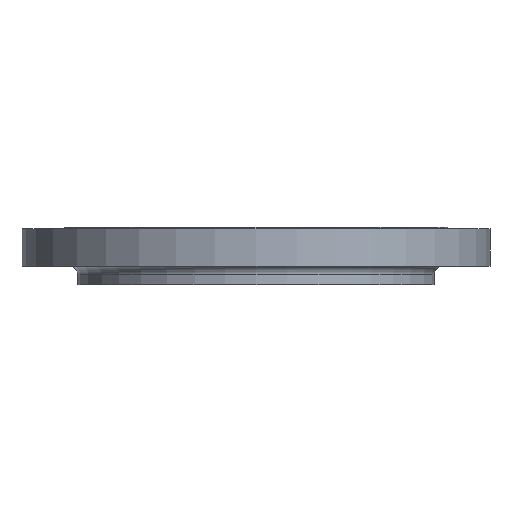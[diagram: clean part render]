
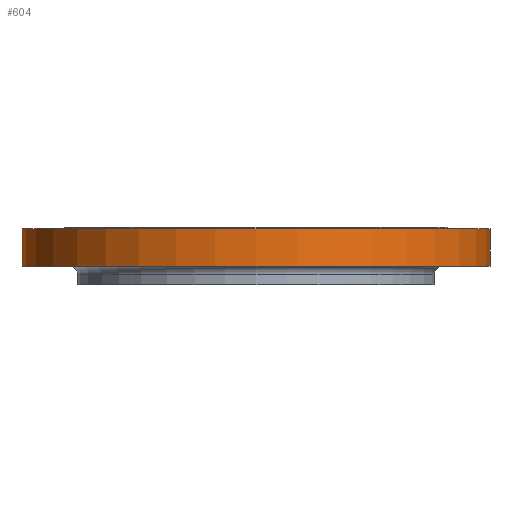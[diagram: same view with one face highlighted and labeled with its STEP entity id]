
A CAD part, front view. The second image highlights one B-rep face of the part: STEP entity #604.
In plain terms, the highlighted cylindrical face has radius 342.5 mm (diameter 685 mm), a partial arc.
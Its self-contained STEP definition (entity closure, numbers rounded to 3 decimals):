
#66 = DIRECTION ( 'NONE',  ( -1., 0., 0. ) ) ;
#69 = DIRECTION ( 'NONE',  ( 0., 0., -1. ) ) ;
#70 = CARTESIAN_POINT ( 'NONE',  ( 0., 0., -2. ) ) ;
#88 = DIRECTION ( 'NONE',  ( 1., 0., 0. ) ) ;
#89 = DIRECTION ( 'NONE',  ( 0., 0., 1. ) ) ;
#90 = CARTESIAN_POINT ( 'NONE',  ( 0., 0., -150. ) ) ;
#92 = CYLINDRICAL_SURFACE ( 'NONE', #316, 342.5 ) ;
#94 = FACE_OUTER_BOUND ( 'NONE', #1043, .T. ) ;
#179 = DIRECTION ( 'NONE',  ( 0., 0., 1. ) ) ;
#219 = CARTESIAN_POINT ( 'NONE',  ( 342.5, 0., -57. ) ) ;
#225 = CARTESIAN_POINT ( 'NONE',  ( -342.5, 0., -57. ) ) ;
#232 = CARTESIAN_POINT ( 'NONE',  ( -342.5, 0., -2. ) ) ;
#316 = AXIS2_PLACEMENT_3D ( 'NONE', #90, #89, #88 ) ;
#374 = VERTEX_POINT ( 'NONE', #232 ) ;
#379 = VERTEX_POINT ( 'NONE', #225 ) ;
#383 = VERTEX_POINT ( 'NONE', #219 ) ;
#441 = AXIS2_PLACEMENT_3D ( 'NONE', #728, #720, #716 ) ;
#526 = CARTESIAN_POINT ( 'NONE',  ( 342.5, 0., -150. ) ) ;
#572 = CARTESIAN_POINT ( 'NONE',  ( 342.5, 0., -2. ) ) ;
#604 = ADVANCED_FACE ( 'NONE', ( #94 ), #92, .T. ) ;
#646 = EDGE_CURVE ( 'NONE', #1465, #374, #1056, .T. ) ;
#716 = DIRECTION ( 'NONE',  ( 1., 0., 0. ) ) ;
#720 = DIRECTION ( 'NONE',  ( 0., 0., 1. ) ) ;
#724 = ORIENTED_EDGE ( 'NONE', *, *, #646, .T. ) ;
#725 = ORIENTED_EDGE ( 'NONE', *, *, #1929, .T. ) ;
#728 = CARTESIAN_POINT ( 'NONE',  ( 0., 0., -57. ) ) ;
#729 = ORIENTED_EDGE ( 'NONE', *, *, #815, .T. ) ;
#731 = ORIENTED_EDGE ( 'NONE', *, *, #1144, .F. ) ;
#815 = EDGE_CURVE ( 'NONE', #379, #383, #1274, .T. ) ;
#1043 = EDGE_LOOP ( 'NONE', ( #731, #729, #725, #724 ) ) ;
#1056 = CIRCLE ( 'NONE', #1067, 342.5 ) ;
#1067 = AXIS2_PLACEMENT_3D ( 'NONE', #70, #69, #66 ) ;
#1144 = EDGE_CURVE ( 'NONE', #379, #374, #1194, .T. ) ;
#1194 = LINE ( 'NONE', #1826, #1766 ) ;
#1274 = CIRCLE ( 'NONE', #441, 342.5 ) ;
#1304 = DIRECTION ( 'NONE',  ( 0., 0., 1. ) ) ;
#1465 = VERTEX_POINT ( 'NONE', #572 ) ;
#1766 = VECTOR ( 'NONE', #179, 1000. ) ;
#1826 = CARTESIAN_POINT ( 'NONE',  ( -342.5, 0., -150. ) ) ;
#1929 = EDGE_CURVE ( 'NONE', #383, #1465, #1951, .T. ) ;
#1951 = LINE ( 'NONE', #526, #2013 ) ;
#2013 = VECTOR ( 'NONE', #1304, 1000. ) ;
